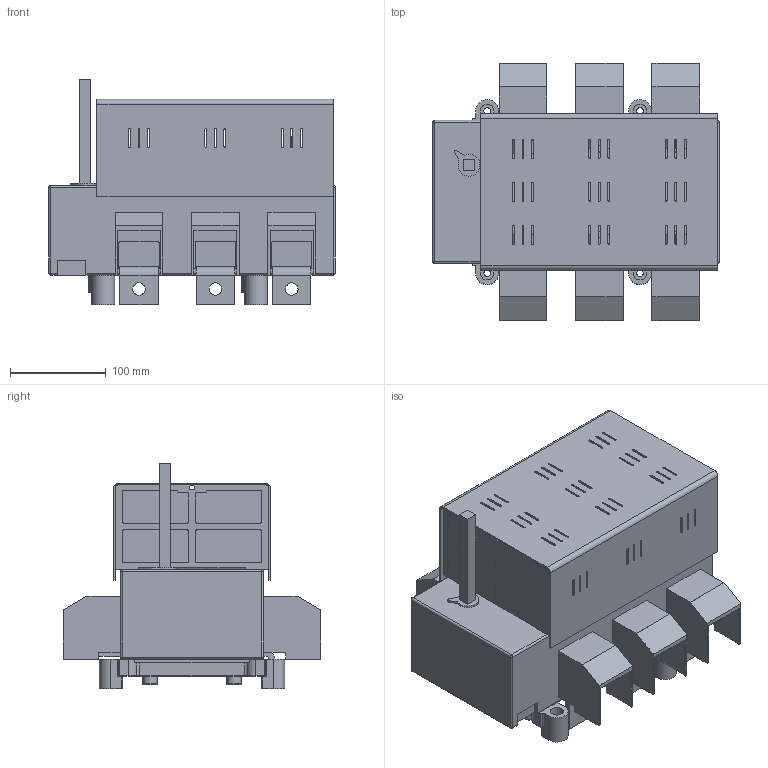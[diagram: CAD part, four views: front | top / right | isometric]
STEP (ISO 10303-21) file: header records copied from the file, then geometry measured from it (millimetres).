
FILE_DESCRIPTION(/* description */ (''),/* implementation_level */ '2;1');
FILE_NAME(/* name */ 'RAB 3 P3 A z oslona zaciskow.stp',/* time_stamp */ '2021-08-19T14:50:29+02:00',/* author */ (''),/* organization */ (''),/* preprocessor_version */ 'ST-DEVELOPER v18.1',/* originating_system */ 'SIEMENS PLM Software NX 1965',/* authorisation */ '');
FILE_SCHEMA (('AUTOMOTIVE_DESIGN { 1 0 10303 214 3 1 1 1 }'));
Length unit declared in the file: millimetre
Products named in the file (1): RAB 3 P3 A z oslona zaciskow_stp
Bounding box: 300 x 270 x 236 mm (x, y, z)
Volume: 4571591.9 mm3; surface area: 760570.8 mm2
Topology: 1 solids, 13 shells, 1708 faces, 4661 edges, 2997 vertices
Faces by surface type: plane 1042, cylinder 556, bspline 50, torus 44, cone 8, sphere 8
Full cylindrical faces by diameter (mm): 3 x4, 4.8 x4, 5.6 x4, 6.5 x26, 7 x4, 10.5 x26, 13 x6, 13.5 x4, 14 x4, 15 x4
Entity records: 55723 total; most frequent: CARTESIAN_POINT 12269, ORIENTED_EDGE 9024, DIRECTION 8926, EDGE_CURVE 4512, LINE 3176, VECTOR 3176, VERTEX_POINT 2970, AXIS2_PLACEMENT_3D 2875
